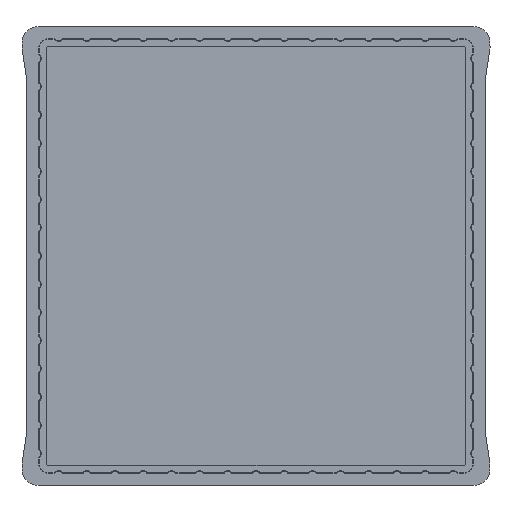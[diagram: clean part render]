
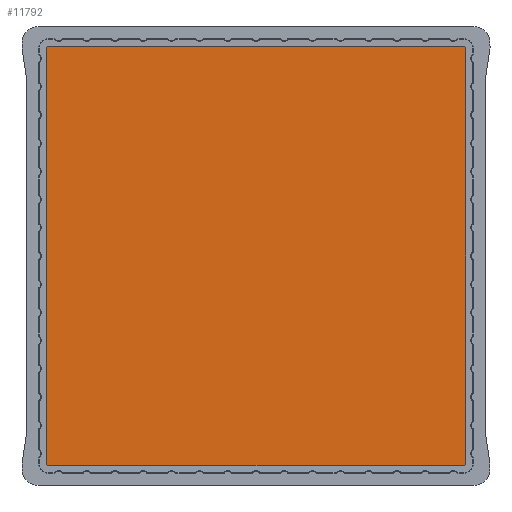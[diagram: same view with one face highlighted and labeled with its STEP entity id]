
A CAD part, front view. The second image highlights one B-rep face of the part: STEP entity #11792.
In plain terms, the highlighted planar face has unit normal (0, -1, 0).
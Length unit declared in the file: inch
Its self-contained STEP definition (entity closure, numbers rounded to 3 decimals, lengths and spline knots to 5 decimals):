
#1773 = CARTESIAN_POINT ( 'NONE',  ( 1.3931, 0., -1.38 ) ) ;
#1774 = CARTESIAN_POINT ( 'NONE',  ( 1.38, 0., -1.3931 ) ) ;
#1802 = CARTESIAN_POINT ( 'NONE',  ( -1.3931, 0., -1.38 ) ) ;
#1853 = CARTESIAN_POINT ( 'NONE',  ( -1.38, 0., 1.3931 ) ) ;
#1855 = CARTESIAN_POINT ( 'NONE',  ( -1.3931, 0., 1.38 ) ) ;
#1865 = CARTESIAN_POINT ( 'NONE',  ( 1.3931, 0., 1.38 ) ) ;
#1914 = CARTESIAN_POINT ( 'NONE',  ( -1.38, 0., -1.3931 ) ) ;
#1923 = CARTESIAN_POINT ( 'NONE',  ( 1.38, 0., 1.3931 ) ) ;
#2567 = VERTEX_POINT ( 'NONE', #1923 ) ;
#2576 = VERTEX_POINT ( 'NONE', #1914 ) ;
#2616 = VERTEX_POINT ( 'NONE', #1865 ) ;
#2624 = VERTEX_POINT ( 'NONE', #1855 ) ;
#2625 = VERTEX_POINT ( 'NONE', #1853 ) ;
#2677 = VERTEX_POINT ( 'NONE', #1802 ) ;
#2702 = VERTEX_POINT ( 'NONE', #1774 ) ;
#2703 = VERTEX_POINT ( 'NONE', #1773 ) ;
#3226 = ORIENTED_EDGE ( 'NONE', *, *, #10283, .T. ) ;
#3227 = ORIENTED_EDGE ( 'NONE', *, *, #10287, .T. ) ;
#3228 = ORIENTED_EDGE ( 'NONE', *, *, #10285, .T. ) ;
#3229 = ORIENTED_EDGE ( 'NONE', *, *, #10280, .T. ) ;
#3230 = ORIENTED_EDGE ( 'NONE', *, *, #10278, .T. ) ;
#3231 = ORIENTED_EDGE ( 'NONE', *, *, #10276, .T. ) ;
#3233 = ORIENTED_EDGE ( 'NONE', *, *, #10273, .T. ) ;
#3234 = ORIENTED_EDGE ( 'NONE', *, *, #10290, .T. ) ;
#6398 = AXIS2_PLACEMENT_3D ( 'NONE', #9267, #9247, #9246 ) ;
#6399 = AXIS2_PLACEMENT_3D ( 'NONE', #9278, #9256, #9255 ) ;
#6400 = AXIS2_PLACEMENT_3D ( 'NONE', #9282, #9277, #9276 ) ;
#6401 = AXIS2_PLACEMENT_3D ( 'NONE', #9275, #9266, #9265 ) ;
#8366 = DIRECTION ( 'NONE',  ( 0., 0., 1. ) ) ;
#8367 = DIRECTION ( 'NONE',  ( 0., 1., 0. ) ) ;
#8376 = CARTESIAN_POINT ( 'NONE',  ( 1.65004, 0., -1.1648 ) ) ;
#8379 = PLANE ( 'NONE',  #9374 ) ;
#9238 = DIRECTION ( 'NONE',  ( 0., 0., -1. ) ) ;
#9239 = CARTESIAN_POINT ( 'NONE',  ( -1.3931, 0., -1.1648 ) ) ;
#9246 = DIRECTION ( 'NONE',  ( 0., 0., 1. ) ) ;
#9247 = DIRECTION ( 'NONE',  ( 0., -1., 0. ) ) ;
#9251 = DIRECTION ( 'NONE',  ( -1., 0., 0. ) ) ;
#9252 = CARTESIAN_POINT ( 'NONE',  ( 1.65004, 0., 1.3931 ) ) ;
#9255 = DIRECTION ( 'NONE',  ( 0., 0., 1. ) ) ;
#9256 = DIRECTION ( 'NONE',  ( 0., -1., 0. ) ) ;
#9261 = DIRECTION ( 'NONE',  ( 0., 0., 1. ) ) ;
#9262 = CARTESIAN_POINT ( 'NONE',  ( 1.3931, 0., -1.1648 ) ) ;
#9265 = DIRECTION ( 'NONE',  ( 0., 0., 1. ) ) ;
#9266 = DIRECTION ( 'NONE',  ( 0., -1., 0. ) ) ;
#9267 = CARTESIAN_POINT ( 'NONE',  ( -1.38, 0., 1.38 ) ) ;
#9270 = DIRECTION ( 'NONE',  ( 1., 0., 0. ) ) ;
#9271 = CARTESIAN_POINT ( 'NONE',  ( 1.65004, 0., -1.3931 ) ) ;
#9275 = CARTESIAN_POINT ( 'NONE',  ( 1.38, 0., -1.38 ) ) ;
#9276 = DIRECTION ( 'NONE',  ( 0., 0., 1. ) ) ;
#9277 = DIRECTION ( 'NONE',  ( 0., -1., 0. ) ) ;
#9278 = CARTESIAN_POINT ( 'NONE',  ( 1.38, 0., 1.38 ) ) ;
#9282 = CARTESIAN_POINT ( 'NONE',  ( -1.38, 0., -1.38 ) ) ;
#9374 = AXIS2_PLACEMENT_3D ( 'NONE', #8376, #8367, #8366 ) ;
#10273 = EDGE_CURVE ( 'NONE', #2677, #2576, #11612, .T. ) ;
#10276 = EDGE_CURVE ( 'NONE', #2576, #2702, #11615, .T. ) ;
#10278 = EDGE_CURVE ( 'NONE', #2702, #2703, #11621, .T. ) ;
#10280 = EDGE_CURVE ( 'NONE', #2703, #2616, #11622, .T. ) ;
#10283 = EDGE_CURVE ( 'NONE', #2616, #2567, #11630, .T. ) ;
#10285 = EDGE_CURVE ( 'NONE', #2567, #2625, #11631, .T. ) ;
#10287 = EDGE_CURVE ( 'NONE', #2625, #2624, #11637, .T. ) ;
#10290 = EDGE_CURVE ( 'NONE', #2624, #2677, #11628, .T. ) ;
#10973 = FACE_OUTER_BOUND ( 'NONE', #12134, .T. ) ;
#11612 = CIRCLE ( 'NONE', #6400, 0.0131 ) ;
#11615 = LINE ( 'NONE', #9271, #11616 ) ;
#11616 = VECTOR ( 'NONE', #9270, 39.37008 ) ;
#11621 = CIRCLE ( 'NONE', #6401, 0.0131 ) ;
#11622 = LINE ( 'NONE', #9262, #11623 ) ;
#11623 = VECTOR ( 'NONE', #9261, 39.37008 ) ;
#11628 = LINE ( 'NONE', #9239, #11636 ) ;
#11630 = CIRCLE ( 'NONE', #6399, 0.0131 ) ;
#11631 = LINE ( 'NONE', #9252, #11632 ) ;
#11632 = VECTOR ( 'NONE', #9251, 39.37008 ) ;
#11636 = VECTOR ( 'NONE', #9238, 39.37008 ) ;
#11637 = CIRCLE ( 'NONE', #6398, 0.0131 ) ;
#11792 = ADVANCED_FACE ( 'NONE', ( #10973 ), #8379, .F. ) ;
#12134 = EDGE_LOOP ( 'NONE', ( #3234, #3233, #3231, #3230, #3229, #3226, #3228, #3227 ) ) ;
